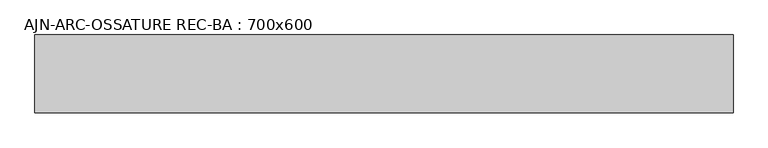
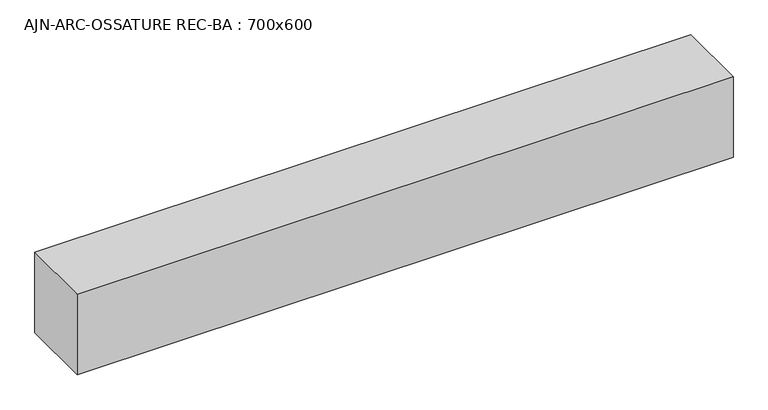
"""IFC4 building model written with IfcOpenShell, lengths in millimetres: beam geometry, AJN-ARC-OSSATURE REC-BA : 700x600."""

from ifc_helpers import new_model, si_unit, frame, origin, place, context, project, spatial, polyline, outline, extrude, source, transform, mapped, element, save


def ajn_arc_ossature_rec_ba_700x600_428e4c06(model_context):
    return source(origin(), model_context, "Body", "SweptSolid", [
        extrude(outline(polyline([(2700.0, 300.0), (2700.0, -300.0), (-2687.2999994, -300.0), (-2687.2999994, 300.0), (2700.0, 300.0)])), frame((0.0, 0.0, -350.0), z_axis=(0.0, 0.0, 1.0), x_axis=(1.0, 0.0, 0.0)), (0.0, 0.0, 1.0), 700.0),
    ])


if __name__ == "__main__":
    model = new_model("IFC4")
    model_context = context("Model", 3, world=origin())
    ifc_project = project(units=[si_unit("LENGTHUNIT", "METRE", prefix="MILLI")], contexts=[model_context])
    site = spatial("IfcSite", under=ifc_project)
    building = spatial("IfcBuilding", under=site)
    placement = place(None, origin())
    ajn_arc_ossature_rec_ba_700x600_shape = ajn_arc_ossature_rec_ba_700x600_428e4c06(model_context)
    element("IfcBeam", 1, ObjectType="AJN-ARC-OSSATURE REC-BA : 700x600", at=placement, inside=building, context=model_context, shape_type="MappedRepresentation", body=[
        mapped(ajn_arc_ossature_rec_ba_700x600_shape, transform((0.0, 0.0, 0.0), x_axis=(1.0, 0.0, 0.0), y_axis=(0.0, 1.0, 0.0), z_axis=(0.0, 0.0, 1.0))),
    ])
    save(model, "model.ifc")
